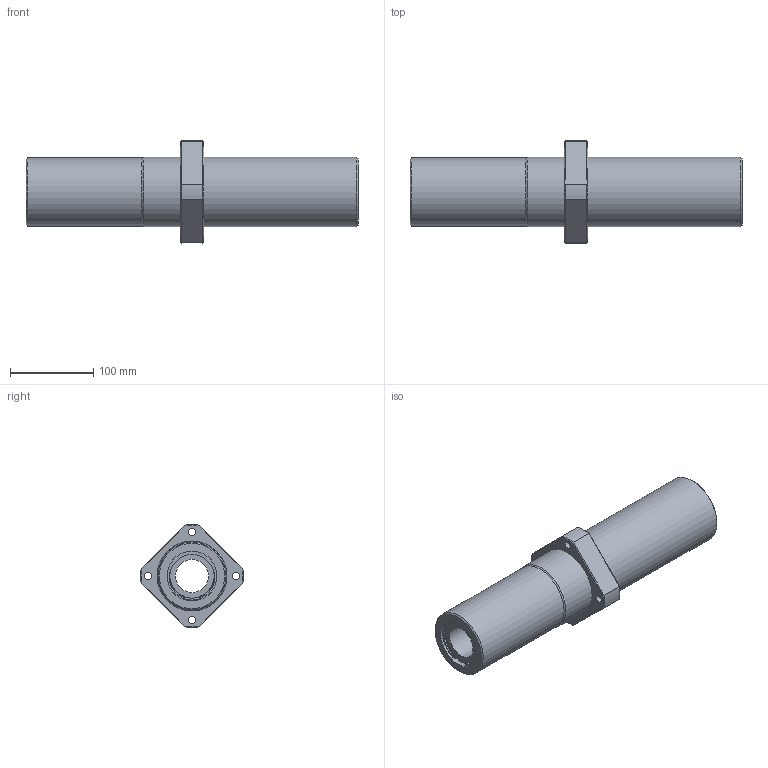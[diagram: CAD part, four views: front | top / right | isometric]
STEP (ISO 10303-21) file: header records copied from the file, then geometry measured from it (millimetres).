
FILE_DESCRIPTION((''),'2;1');
FILE_NAME('C:\Documents and Settings\土屋\My Documents\土屋移動用フォルダ\製品 (図面)\カタログ用3D\変換ファイル\OZAK_3D-CAD(STEP形式)\Part1.-Linear Bearings_ﾘﾆｱﾍﾞｱﾘﾝｸﾞ\09_Maintenance Free_ﾒｲﾝﾃﾅﾝｽﾌﾘｰ\L2017-09-22T14:18:20','2017-09-22T14:18:20',('y'),(''),'Autodesk Inventor 11','Autodesk Inventor 11','');
FILE_SCHEMA(('AUTOMOTIVE_DESIGN { 1 0 10303 214 1 1 1 1 }'));
Length unit declared in the file: millimetre
Products named in the file (1): LFWLC40MF
Bounding box: 400 x 123.84 x 123.84 mm (x, y, z)
Volume: 1768483.5 mm3; surface area: 190146.9 mm2
Topology: 1 solids, 7 shells, 115 faces, 265 edges, 162 vertices
Faces by surface type: plane 36, bspline 34, cylinder 32, cone 11, torus 2
Full cylindrical faces by diameter (mm): 2.5 x2, 9 x4, 40 x2, 53.4 x2, 57 x2, 60 x8, 82 x1, 84 x2
Entity records: 3261 total; most frequent: CARTESIAN_POINT 872, DIRECTION 500, ORIENTED_EDGE 420, AXIS2_PLACEMENT_3D 224, EDGE_CURVE 210, EDGE_LOOP 186, VERTEX_POINT 146, CIRCLE 142
